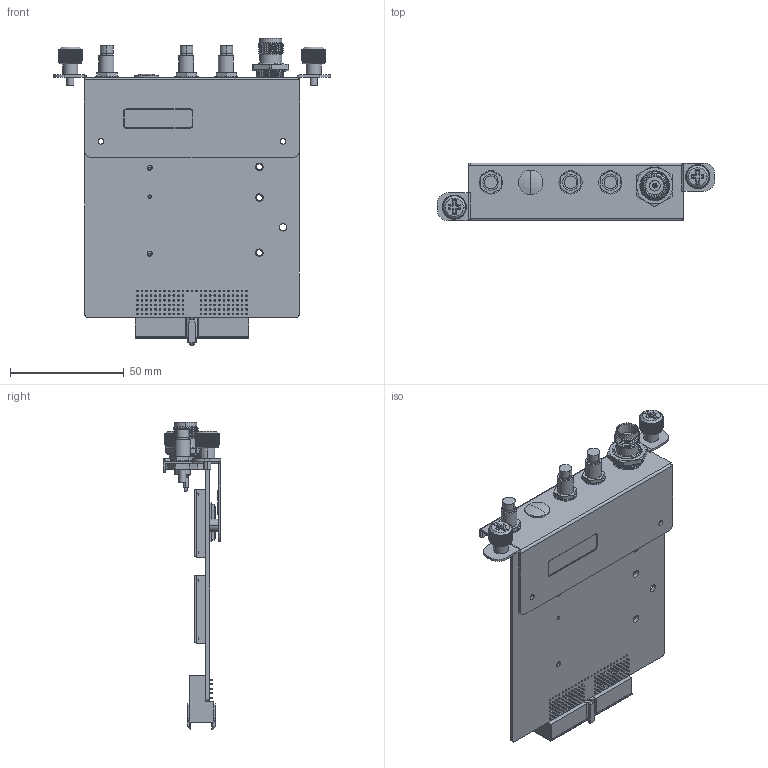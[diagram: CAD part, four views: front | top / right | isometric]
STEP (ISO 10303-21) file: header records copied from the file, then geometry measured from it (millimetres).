
FILE_DESCRIPTION((''),'2;1');
FILE_NAME('EPM-3338','2012-11-08T',('Laban_Liu'),(''),'PRO/ENGINEER BY PARAMETRIC TECHNOLOGY CORPORATION, 2009360','PRO/ENGINEER BY PARAMETRIC TECHNOLOGY CORPORATION, 2009360','');
FILE_SCHEMA(('AUTOMOTIVE_DESIGN_CC2 { 1 2 10303 214 -1 1 5 2 }'));
Products named in the file (1): EPM-3338
Bounding box: 122 x 25.4 x 135.14 mm (x, y, z)
Volume: 50682.6 mm3; surface area: 51558.3 mm2
Topology: 1 solids, 7 shells, 3744 faces, 9655 edges, 6298 vertices
Faces by surface type: plane 2782, cylinder 776, bspline 100, cone 65, torus 10, sphere 10, extrusion 1
Entity records: 145426 total; most frequent: CARTESIAN_POINT 33294, ORIENTED_EDGE 19270, DIRECTION 17449, EDGE_CURVE 9639, VECTOR 6605, LINE 6604, VERTEX_POINT 6298, AXIS2_PLACEMENT_3D 5422
